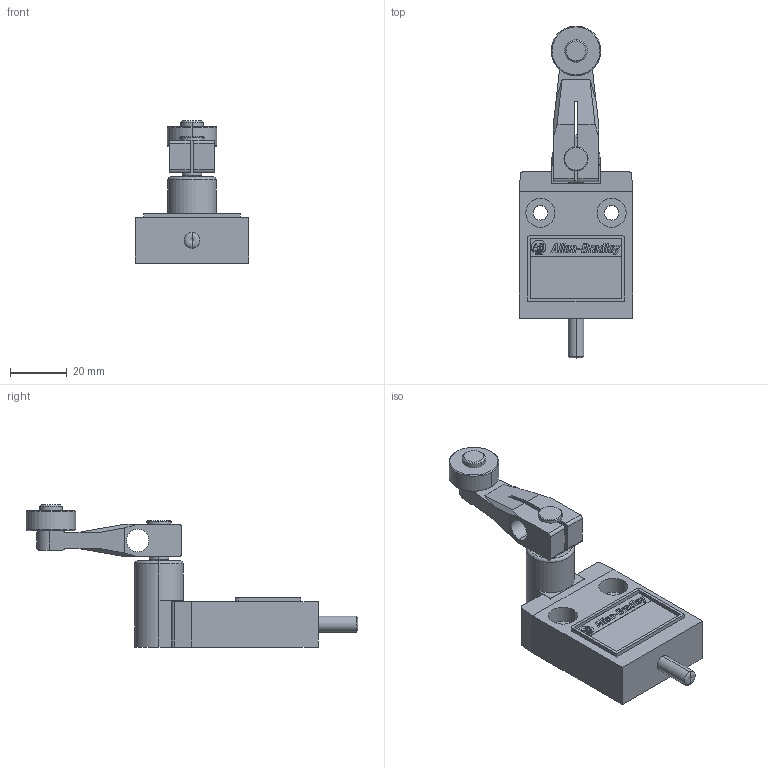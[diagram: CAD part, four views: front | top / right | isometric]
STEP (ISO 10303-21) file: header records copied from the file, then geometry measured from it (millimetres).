
FILE_DESCRIPTION (( 'STEP AP214' ), '1' );
FILE_NAME ('802B-CSAAXSLR4.STEP', '2009-08-12T07:17:50', ( ' ' ), ( ' ' ), 'SwSTEP 2.0', 'SolidWorks 2007', '' );
FILE_SCHEMA (( 'AUTOMOTIVE_DESIGN' ));
Length unit declared in the file: millimetre
Products named in the file (1): 802B-CSAAXSLR4
Bounding box: 40.07 x 116.7 x 50 mm (x, y, z)
Volume: 46954.1 mm3; surface area: 16619.8 mm2
Topology: 23 solids, 23 shells, 625 faces, 1700 edges, 1127 vertices
Faces by surface type: plane 571, cylinder 40, cone 10, torus 4
Entity records: 26550 total; most frequent: CARTESIAN_POINT 3497, ORIENTED_EDGE 3396, DIRECTION 3028, EDGE_CURVE 1698, LINE 1600, VECTOR 1600, VERTEX_POINT 1127, AXIS2_PLACEMENT_3D 714
